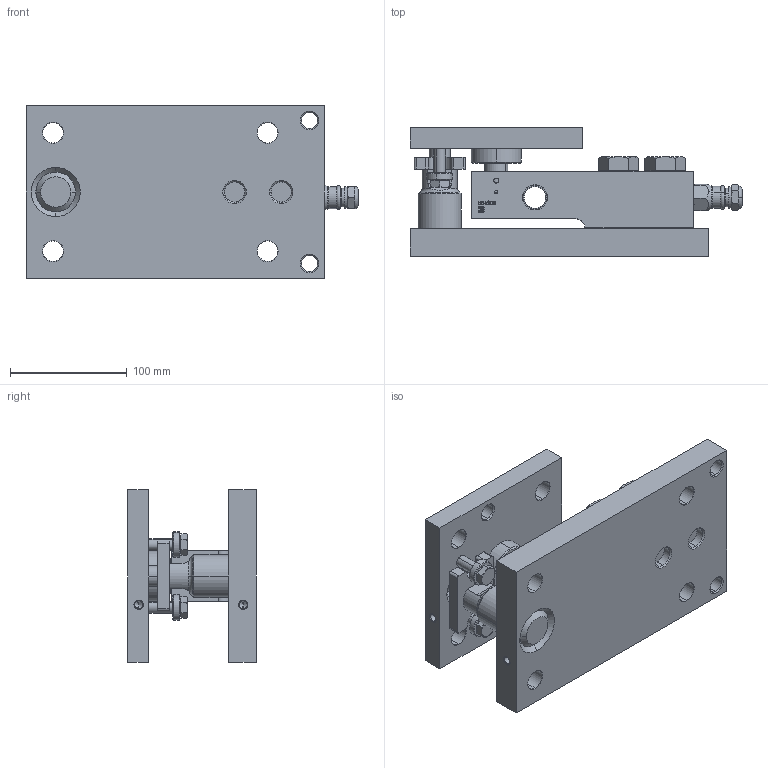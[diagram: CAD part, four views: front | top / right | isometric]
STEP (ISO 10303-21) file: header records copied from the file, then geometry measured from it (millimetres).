
FILE_DESCRIPTION (( 'STEP AP214' ), '1' );
FILE_NAME ('Load_Point_HI ONELP-H-11.25KLB-XX_Without Check Links.STEP', '2016-08-18T21:21:52', ( 'Jim' ), ( 'Hewlett-Packard Company' ), 'SwSTEP 2.0', 'SolidWorks 2015', '' );
FILE_SCHEMA (( 'AUTOMOTIVE_DESIGN' ));
Length unit declared in the file: millimetre
Products named in the file (25): 0009750; 0005552; 0005550; Load Cup; Top Plate; Base Plate Assembly; Rocker Pin Assembly; Center Pillar Assembly_Post Second Machining; O-Ring; Rocker Pin; Lift-Off Plate; Hex Screw GradeAB_ISO_ISO 4017 - M10 x 45-N-A2.70; Center Pillar; Hex Screw GradeAB_ISO_ISO 4017 - M20 x 65-N-A2.70; Base Plate; Lift-Off Washer; Load Sensor Assembly; Load_Point_HI ONELP-H-11.25KLB-XX_Without Check Links; 0019744; 0045191; 0006668; 0005558; 0005556; 0006798; 0006697
Assembly tree (28 placements, depth 4):
  Load_Point_HI ONELP-H-11.25KLB-XX_Without Check Links
    Base Plate Assembly
      Base Plate
      Center Pillar Assembly_Post Second Machining
        Center Pillar
        Lift-Off Plate
    Top Plate
    Load Cup
    Load Sensor Assembly
      0005550
      0005552
      0009750
      0006697
      0006798
      0005556
      0005558
      0006668
      0045191
      0019744
    Lift-Off Washer  x2
    Hex Screw GradeAB_ISO_ISO 4017 - M20 x 65-N-A2.70  x2
    Hex Screw GradeAB_ISO_ISO 4017 - M10 x 45-N-A2.70  x2
    Rocker Pin Assembly
      Rocker Pin
      O-Ring  x2
Bounding box: 284.98 x 110.62 x 148 mm (x, y, z)
Volume: 1705199.8 mm3; surface area: 276711.1 mm2
Topology: 24 solids, 24 shells, 7161 faces, 20037 edges, 13666 vertices
Faces by surface type: bspline 4694, plane 1851, cylinder 388, cone 182, torus 46
Entity records: 372166 total; most frequent: CARTESIAN_POINT 215212, ORIENTED_EDGE 39752, EDGE_CURVE 19876, DIRECTION 16014, VERTEX_POINT 13578, B_SPLINE_CURVE_WITH_KNOTS 9923, LINE 8334, VECTOR 8334
